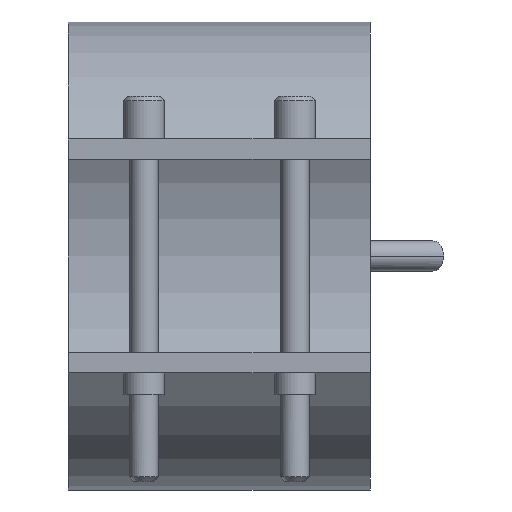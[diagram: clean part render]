
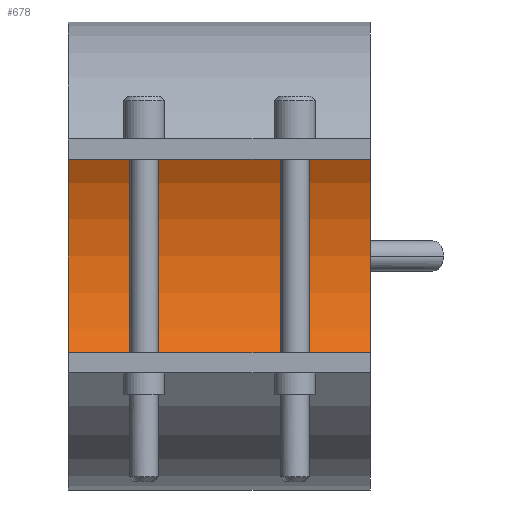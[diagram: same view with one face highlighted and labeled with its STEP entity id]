
A CAD part, front view. The second image highlights one B-rep face of the part: STEP entity #678.
In plain terms, the highlighted cylindrical face has radius 42.5 mm (diameter 85 mm), a partial arc.
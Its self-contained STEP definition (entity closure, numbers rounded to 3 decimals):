
#348=CARTESIAN_POINT('Vertex',(30.,0.,42.5)) ;
#353=CARTESIAN_POINT('Axis2P3D Location',(30.,0.,0.)) ;
#357=CARTESIAN_POINT('Vertex',(30.,0.,-42.5)) ;
#464=CARTESIAN_POINT('Vertex',(-30.,0.,-42.5)) ;
#467=CARTESIAN_POINT('Axis2P3D Location',(-30.,0.,0.)) ;
#471=CARTESIAN_POINT('Vertex',(-30.,0.,42.5)) ;
#650=CARTESIAN_POINT('Line Origine',(30.,0.,42.5)) ;
#662=CARTESIAN_POINT('Axis2P3D Location',(30.,0.,0.)) ;
#667=CARTESIAN_POINT('Line Origine',(30.,0.,-42.5)) ;
#354=DIRECTION('Axis2P3D Direction',(1.,0.,0.)) ;
#468=DIRECTION('Axis2P3D Direction',(1.,0.,0.)) ;
#651=DIRECTION('Vector Direction',(1.,0.,0.)) ;
#663=DIRECTION('Axis2P3D Direction',(1.,0.,-0.)) ;
#664=DIRECTION('Axis2P3D XDirection',(0.,0.,-1.)) ;
#668=DIRECTION('Vector Direction',(1.,0.,0.)) ;
#355=AXIS2_PLACEMENT_3D('Circle Axis2P3D',#353,#354,$) ;
#469=AXIS2_PLACEMENT_3D('Circle Axis2P3D',#467,#468,$) ;
#665=AXIS2_PLACEMENT_3D('Cylinder Axis2P3D',#662,#663,#664) ;
#673=ORIENTED_EDGE('',*,*,#359,.T.) ;
#674=ORIENTED_EDGE('',*,*,#654,.T.) ;
#675=ORIENTED_EDGE('',*,*,#473,.F.) ;
#676=ORIENTED_EDGE('',*,*,#671,.T.) ;
#652=VECTOR('Line Direction',#651,1.) ;
#669=VECTOR('Line Direction',#668,1.) ;
#678=ADVANCED_FACE('29085060',(#677),#666,.F.) ;
#356=CIRCLE('generated circle',#355,42.5) ;
#470=CIRCLE('generated circle',#469,42.5) ;
#666=CYLINDRICAL_SURFACE('generated cylinder',#665,42.5) ;
#359=EDGE_CURVE('',#358,#349,#356,.T.) ;
#473=EDGE_CURVE('',#465,#472,#470,.T.) ;
#654=EDGE_CURVE('',#349,#472,#653,.F.) ;
#671=EDGE_CURVE('',#465,#358,#670,.T.) ;
#672=EDGE_LOOP('',(#673,#674,#675,#676)) ;
#677=FACE_OUTER_BOUND('',#672,.T.) ;
#653=LINE('Line',#650,#652) ;
#670=LINE('Line',#667,#669) ;
#349=VERTEX_POINT('',#348) ;
#358=VERTEX_POINT('',#357) ;
#465=VERTEX_POINT('',#464) ;
#472=VERTEX_POINT('',#471) ;
